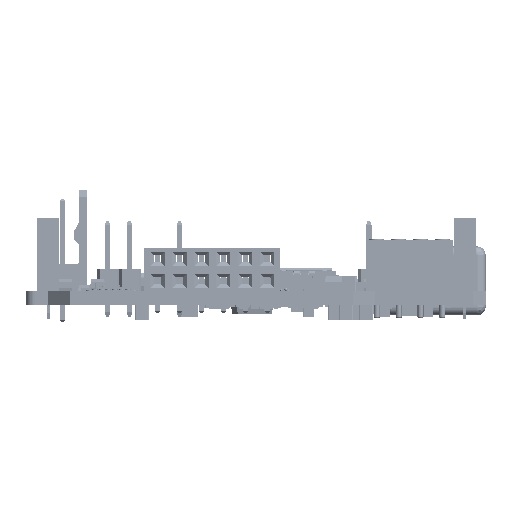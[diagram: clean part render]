
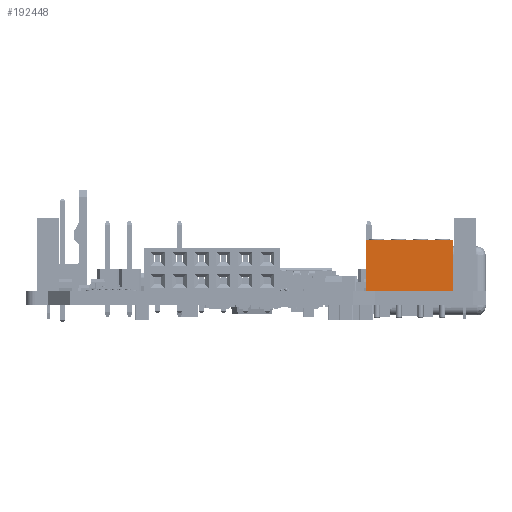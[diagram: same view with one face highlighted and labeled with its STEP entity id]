
A CAD part, front view. The second image highlights one B-rep face of the part: STEP entity #192448.
In plain terms, the highlighted planar face has unit normal (0, -1, 0) as drawn and (0, 0, -1) by its records, which use the part's own axes.
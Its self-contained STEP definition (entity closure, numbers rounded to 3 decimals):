
#192273 = EDGE_CURVE('',#192274,#192276,#192278,.T.);
#192274 = VERTEX_POINT('',#192275);
#192275 = CARTESIAN_POINT('',(10.16,6.,0.));
#192276 = VERTEX_POINT('',#192277);
#192277 = CARTESIAN_POINT('',(0.,6.,0.));
#192278 = LINE('',#192279,#192280);
#192279 = CARTESIAN_POINT('',(0.,6.,0.));
#192280 = VECTOR('',#192281,1.);
#192281 = DIRECTION('',(-1.,0.,-0.));
#192353 = EDGE_CURVE('',#192354,#192356,#192358,.T.);
#192354 = VERTEX_POINT('',#192355);
#192355 = CARTESIAN_POINT('',(0.,0.,0.));
#192356 = VERTEX_POINT('',#192357);
#192357 = CARTESIAN_POINT('',(10.16,0.,0.));
#192358 = LINE('',#192359,#192360);
#192359 = CARTESIAN_POINT('',(0.,0.,0.));
#192360 = VECTOR('',#192361,1.);
#192361 = DIRECTION('',(1.,0.,0.));
#192413 = EDGE_CURVE('',#192276,#192354,#192414,.T.);
#192414 = LINE('',#192415,#192416);
#192415 = CARTESIAN_POINT('',(0.,0.,0.));
#192416 = VECTOR('',#192417,1.);
#192417 = DIRECTION('',(-0.,-1.,-0.));
#192448 = ADVANCED_FACE('',(#192449),#192460,.T.);
#192449 = FACE_BOUND('',#192450,.T.);
#192450 = EDGE_LOOP('',(#192451,#192452,#192453,#192459));
#192451 = ORIENTED_EDGE('',*,*,#192413,.F.);
#192452 = ORIENTED_EDGE('',*,*,#192273,.F.);
#192453 = ORIENTED_EDGE('',*,*,#192454,.F.);
#192454 = EDGE_CURVE('',#192356,#192274,#192455,.T.);
#192455 = LINE('',#192456,#192457);
#192456 = CARTESIAN_POINT('',(10.16,0.,0.));
#192457 = VECTOR('',#192458,1.);
#192458 = DIRECTION('',(0.,1.,0.));
#192459 = ORIENTED_EDGE('',*,*,#192353,.F.);
#192460 = PLANE('',#192461);
#192461 = AXIS2_PLACEMENT_3D('',#192462,#192463,#192464);
#192462 = CARTESIAN_POINT('',(0.,6.,0.));
#192463 = DIRECTION('',(0.,0.,-1.));
#192464 = DIRECTION('',(-1.,0.,-0.));
